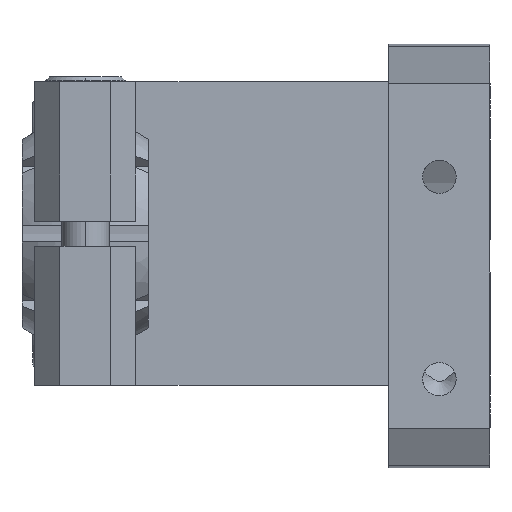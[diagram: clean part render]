
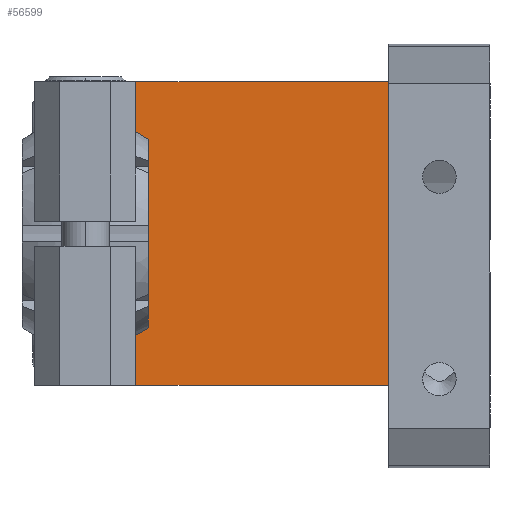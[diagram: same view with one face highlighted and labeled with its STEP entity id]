
A CAD part, left-side view. The second image highlights one B-rep face of the part: STEP entity #56599.
In plain terms, the highlighted planar face has unit normal (-1, 0, 0) as drawn and (0, 0, -1) by its records, which use the part's own axes.
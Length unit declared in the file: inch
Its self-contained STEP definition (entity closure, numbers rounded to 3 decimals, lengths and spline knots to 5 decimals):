
#4788 = AXIS2_PLACEMENT_3D ( 'NONE', #8654, #8653, #8652 ) ;
#8652 = DIRECTION ( 'NONE',  ( 1., 0., 0. ) ) ;
#8653 = DIRECTION ( 'NONE',  ( 0., 0., 1. ) ) ;
#8654 = CARTESIAN_POINT ( 'NONE',  ( 0., 1.25, -0.375 ) ) ;
#8657 = PLANE ( 'NONE',  #4788 ) ;
#8776 = EDGE_LOOP ( 'NONE', ( #36601, #36603, #36605, #36608 ) ) ;
#12017 = CARTESIAN_POINT ( 'NONE',  ( 1.5, 1.25, -0.375 ) ) ;
#12018 = CARTESIAN_POINT ( 'NONE',  ( 0., 1.25, -0.375 ) ) ;
#12059 = CARTESIAN_POINT ( 'NONE',  ( 0., 0., -0.375 ) ) ;
#12135 = CARTESIAN_POINT ( 'NONE',  ( 1.5, 0., -0.375 ) ) ;
#13363 = DIRECTION ( 'NONE',  ( -1., 0., 0. ) ) ;
#13365 = CARTESIAN_POINT ( 'NONE',  ( 0., 0., -0.375 ) ) ;
#13367 = DIRECTION ( 'NONE',  ( 0., -1., 0. ) ) ;
#13368 = CARTESIAN_POINT ( 'NONE',  ( 1.5, 1.25, -0.375 ) ) ;
#13375 = DIRECTION ( 'NONE',  ( 0., -1., 0. ) ) ;
#13376 = CARTESIAN_POINT ( 'NONE',  ( 0., 1.25, -0.375 ) ) ;
#22329 = LINE ( 'NONE', #13376, #22331 ) ;
#22331 = VECTOR ( 'NONE', #13375, 39.37008 ) ;
#22345 = LINE ( 'NONE', #13368, #22347 ) ;
#22347 = VECTOR ( 'NONE', #13367, 39.37008 ) ;
#22349 = LINE ( 'NONE', #13365, #22351 ) ;
#22351 = VECTOR ( 'NONE', #13363, 39.37008 ) ;
#22919 = LINE ( 'NONE', #60908, #22920 ) ;
#22920 = VECTOR ( 'NONE', #60907, 39.37008 ) ;
#25390 = FACE_OUTER_BOUND ( 'NONE', #8776, .T. ) ;
#34587 = EDGE_CURVE ( 'NONE', #39445, #39408, #22329, .T. ) ;
#34591 = EDGE_CURVE ( 'NONE', #39446, #39338, #22345, .T. ) ;
#34592 = EDGE_CURVE ( 'NONE', #39338, #39408, #22349, .T. ) ;
#34943 = EDGE_CURVE ( 'NONE', #39446, #39445, #22919, .T. ) ;
#36601 = ORIENTED_EDGE ( 'NONE', *, *, #34592, .T. ) ;
#36603 = ORIENTED_EDGE ( 'NONE', *, *, #34587, .F. ) ;
#36605 = ORIENTED_EDGE ( 'NONE', *, *, #34943, .F. ) ;
#36608 = ORIENTED_EDGE ( 'NONE', *, *, #34591, .T. ) ;
#39338 = VERTEX_POINT ( 'NONE', #12135 ) ;
#39408 = VERTEX_POINT ( 'NONE', #12059 ) ;
#39445 = VERTEX_POINT ( 'NONE', #12018 ) ;
#39446 = VERTEX_POINT ( 'NONE', #12017 ) ;
#56599 = ADVANCED_FACE ( 'NONE', ( #25390 ), #8657, .F. ) ;
#60907 = DIRECTION ( 'NONE',  ( -1., 0., 0. ) ) ;
#60908 = CARTESIAN_POINT ( 'NONE',  ( 0., 1.25, -0.375 ) ) ;
